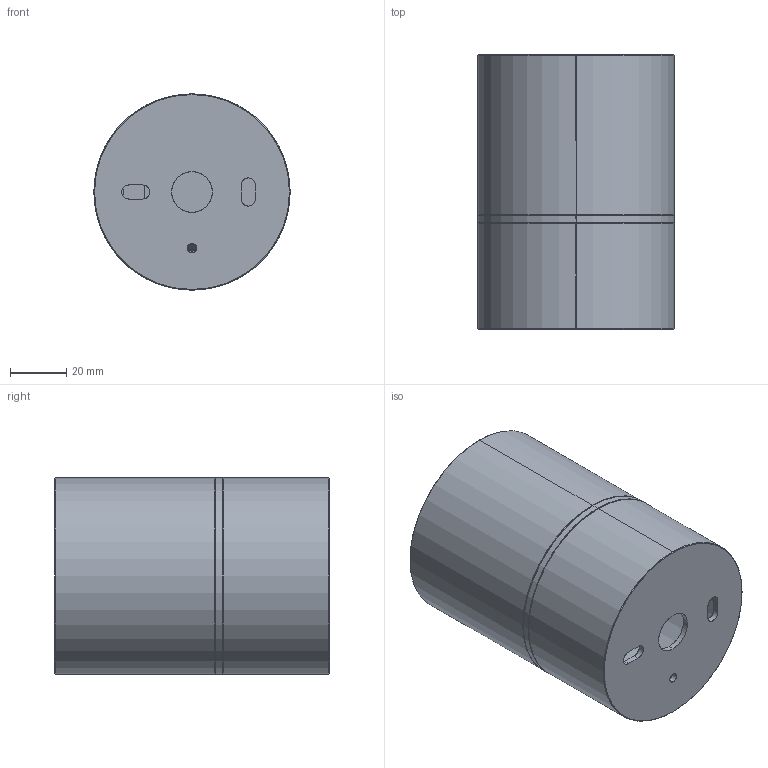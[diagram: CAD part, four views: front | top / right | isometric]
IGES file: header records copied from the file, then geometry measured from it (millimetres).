
Start section: SolidWorks IGES file using analytic representation for surfaces
Global section: file name: \\STORAGE\Tecnico Condiviso\1 FASCICOLI TECNICI\AXO DESIGN\AXO063-PIVOT\DRAW\3D\PLPIVOT01-EU-PER 3D.IGS; native system: SolidWorks 2024; preprocessor: SolidWorks 2024; author: tecnico3; date: 240527.105139; units: millimetre
Bounding box: 69.8 x 97.7 x 69.8 mm (x, y, z)
Surface area: 63458.9 mm2 (no closed solid volume)
Topology: 0 solids, 0 shells, 434 faces, 4596 edges, 4592 vertices
Faces by surface type: revolution 397, bspline 37
